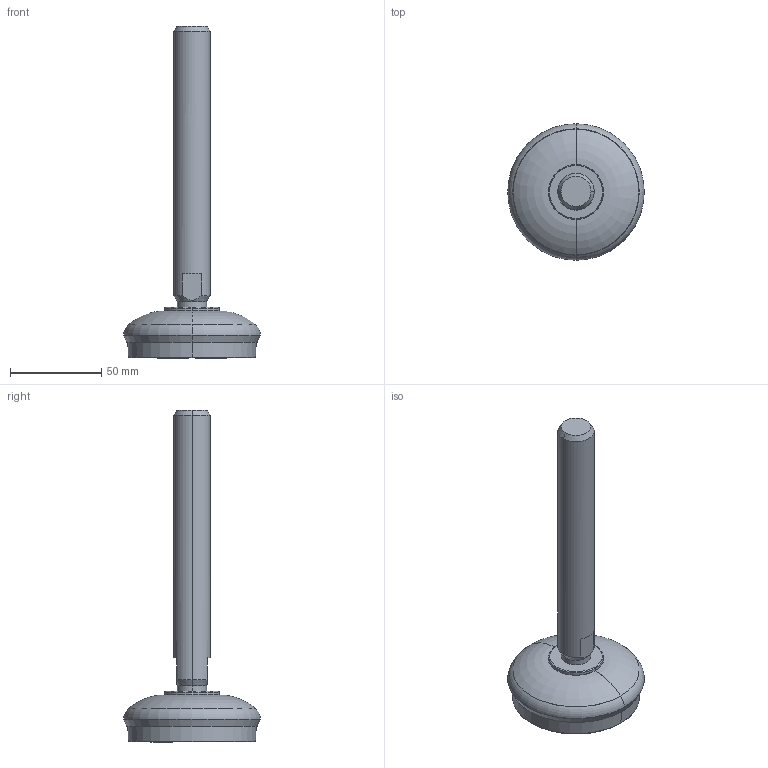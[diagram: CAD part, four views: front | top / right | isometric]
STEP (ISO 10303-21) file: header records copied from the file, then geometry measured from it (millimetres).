
FILE_DESCRIPTION (( 'STEP AP214' ), '1' );
FILE_NAME ('8567820.STEP', '2024-01-24T12:10:16', ( '' ), ( '' ), 'SwSTEP 2.0', 'SolidWorks 2022', '' );
FILE_SCHEMA (( 'AUTOMOTIVE_DESIGN' ));
Length unit declared in the file: millimetre
Products named in the file (1): 8567820
Bounding box: 74.99 x 74.99 x 182.3 mm (x, y, z)
Volume: 141554.3 mm3; surface area: 38252.6 mm2
Topology: 4 solids, 4 shells, 120 faces, 240 edges, 142 vertices
Faces by surface type: cone 36, torus 34, plane 26, cylinder 24
Entity records: 4615 total; most frequent: DIRECTION 652, CARTESIAN_POINT 589, ORIENTED_EDGE 480, AXIS2_PLACEMENT_3D 293, EDGE_CURVE 240, CIRCLE 172, VERTEX_POINT 142, EDGE_LOOP 138
